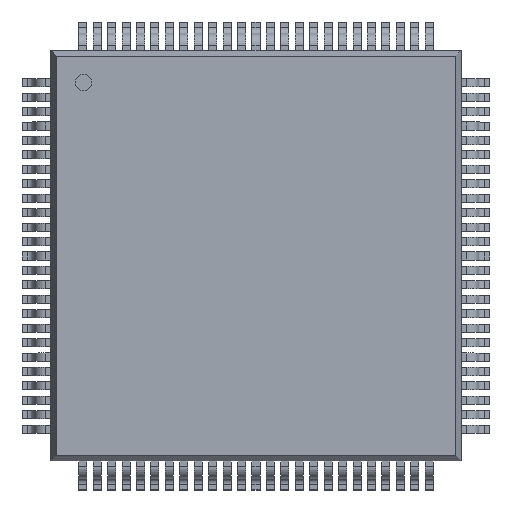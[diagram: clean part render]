
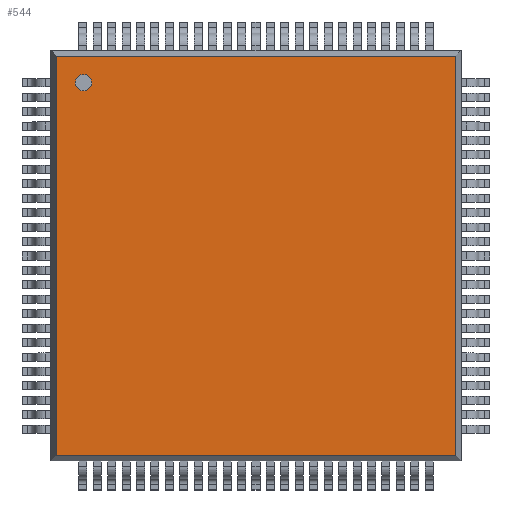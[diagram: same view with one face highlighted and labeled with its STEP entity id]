
A CAD part, top view. The second image highlights one B-rep face of the part: STEP entity #544.
In plain terms, the highlighted planar face has unit normal (0, 0, 1).
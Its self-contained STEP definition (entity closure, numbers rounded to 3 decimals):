
#544=ADVANCED_FACE('',(#550),#545,.T.);
#545=PLANE('',#546);
#546=AXIS2_PLACEMENT_3D('',#547,#548,#549);
#547=CARTESIAN_POINT('',(-6.922,-6.922,1.194));
#548=DIRECTION('',(0.0,0.0,1.0));
#549=DIRECTION('',(0.,1.,0.));
#550=FACE_OUTER_BOUND('',#551,.T.);
#551=EDGE_LOOP('',(#552,#562,#572,#582));
#555=CARTESIAN_POINT('',(6.922,-6.922,1.194));
#554=VERTEX_POINT('',#555);
#557=CARTESIAN_POINT('',(-6.922,-6.922,1.194));
#556=VERTEX_POINT('',#557);
#553=EDGE_CURVE('',#554,#556,#558,.T.);
#558=LINE('',#555,#560);
#560=VECTOR('',#561,13.843);
#561=DIRECTION('',(-1.0,0.0,0.0));
#552=ORIENTED_EDGE('',*,*,#553,.F.);
#565=CARTESIAN_POINT('',(6.922,6.922,1.194));
#564=VERTEX_POINT('',#565);
#563=EDGE_CURVE('',#564,#554,#568,.T.);
#568=LINE('',#565,#570);
#570=VECTOR('',#571,13.843);
#571=DIRECTION('',(0.0,-1.0,0.0));
#562=ORIENTED_EDGE('',*,*,#563,.F.);
#575=CARTESIAN_POINT('',(-6.922,6.922,1.194));
#574=VERTEX_POINT('',#575);
#573=EDGE_CURVE('',#574,#564,#578,.T.);
#578=LINE('',#575,#580);
#580=VECTOR('',#581,13.843);
#581=DIRECTION('',(1.0,0.0,0.0));
#572=ORIENTED_EDGE('',*,*,#573,.F.);
#583=EDGE_CURVE('',#556,#574,#588,.T.);
#588=LINE('',#557,#590);
#590=VECTOR('',#591,13.843);
#591=DIRECTION('',(0.0,1.0,0.0));
#582=ORIENTED_EDGE('',*,*,#583,.F.);
